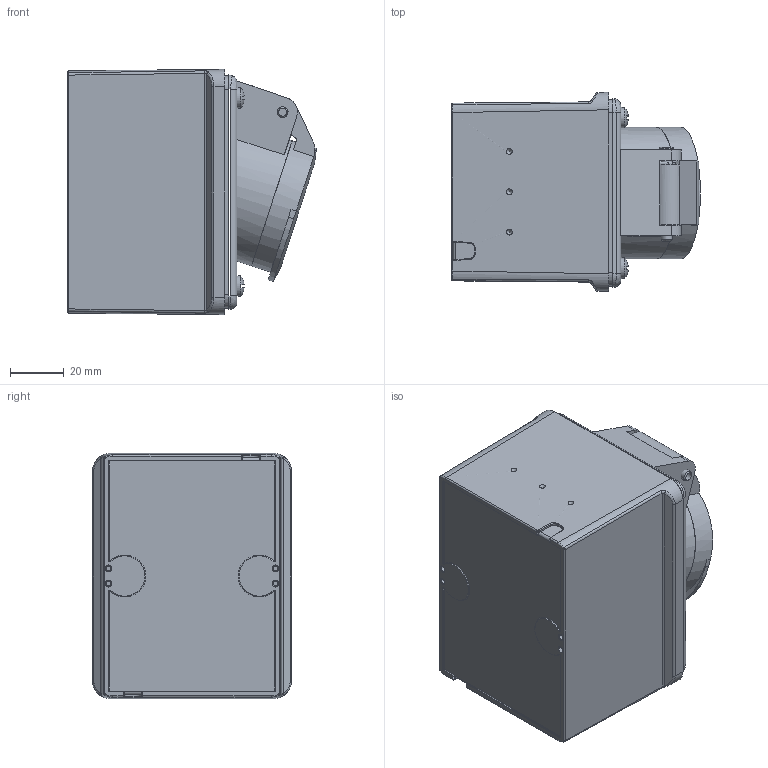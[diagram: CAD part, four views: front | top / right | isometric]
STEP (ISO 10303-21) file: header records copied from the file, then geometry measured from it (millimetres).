
FILE_DESCRIPTION(/* description */ (''),/* implementation_level */ '2;1');
FILE_NAME(/* name */ '4006099.stp',/* time_stamp */ '2016-11-25T08:22:46+01:00',/* author */ (''),/* organization */ (''),/* preprocessor_version */ 'ST-DEVELOPER v16',/* originating_system */ 'SIEMENS PLM Software NX 11.0',/* authorisation */ '');
FILE_SCHEMA (('AUTOMOTIVE_DESIGN { 1 0 10303 214 3 1 1 1 }'));
Length unit declared in the file: millimetre
Products named in the file (1): 4006099_LINKEDEXT_jt
Bounding box: 92.59 x 74 x 91.2 mm (x, y, z)
Surface area: 55926.9 mm2 (no closed solid volume)
Topology: 0 solids, 17 shells, 210 faces, 693 edges, 473 vertices
Faces by surface type: plane 72, bspline 59, cylinder 57, cone 14, sphere 4, torus 4
Full cylindrical faces by diameter (mm): 1 x1, 2 x2, 3 x1, 4 x1, 7.6 x4, 45 x1, 49 x3
Entity records: 13304 total; most frequent: CARTESIAN_POINT 6630, ORIENTED_EDGE 1031, DIRECTION 918, EDGE_CURVE 644, VERTEX_POINT 465, AXIS2_PLACEMENT_3D 329, LINE 260, VECTOR 260
